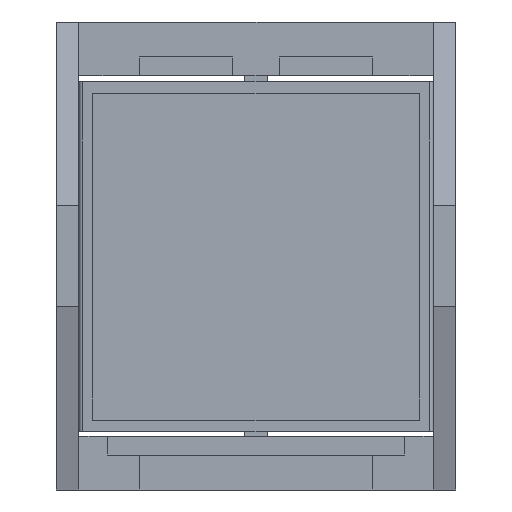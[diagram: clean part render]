
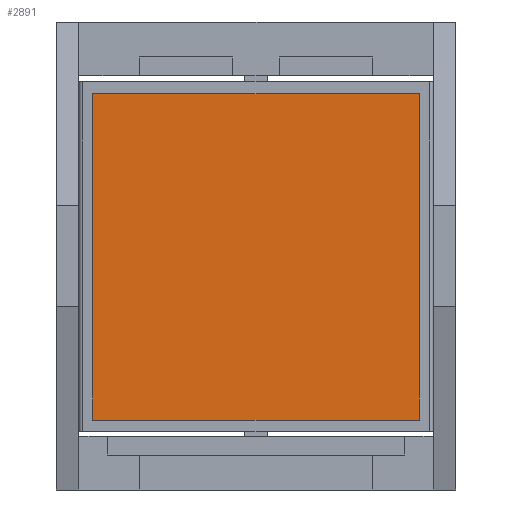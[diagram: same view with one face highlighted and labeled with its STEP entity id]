
A CAD part, front view. The second image highlights one B-rep face of the part: STEP entity #2891.
In plain terms, the highlighted planar face has unit normal (0, -1, 0).
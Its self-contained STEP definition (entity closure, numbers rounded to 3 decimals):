
#61 = EDGE_CURVE ( 'NONE', #6378, #4382, #4320, .T. ) ;
#265 = VERTEX_POINT ( 'NONE', #1347 ) ;
#965 = CARTESIAN_POINT ( 'NONE',  ( 9.081, -3.447, -7.477 ) ) ;
#990 = ORIENTED_EDGE ( 'NONE', *, *, #61, .F. ) ;
#1154 = VECTOR ( 'NONE', #3657, 1000. ) ;
#1347 = CARTESIAN_POINT ( 'NONE',  ( -11.919, -3.447, 13.523 ) ) ;
#1753 = DIRECTION ( 'NONE',  ( 0., 0., 1. ) ) ;
#1844 = ORIENTED_EDGE ( 'NONE', *, *, #6139, .F. ) ;
#1932 = PLANE ( 'NONE',  #3946 ) ;
#1987 = VECTOR ( 'NONE', #4972, 1000. ) ;
#2028 = CARTESIAN_POINT ( 'NONE',  ( -11.919, -3.447, -7.477 ) ) ;
#2283 = CARTESIAN_POINT ( 'NONE',  ( -11.919, -3.447, -7.477 ) ) ;
#2448 = CARTESIAN_POINT ( 'NONE',  ( -11.919, -3.447, 13.523 ) ) ;
#2891 = ADVANCED_FACE ( 'NONE', ( #4751 ), #1932, .F. ) ;
#3294 = ORIENTED_EDGE ( 'NONE', *, *, #6108, .F. ) ;
#3520 = VECTOR ( 'NONE', #1753, 1000. ) ;
#3559 = EDGE_LOOP ( 'NONE', ( #3294, #3739, #990, #1844 ) ) ;
#3657 = DIRECTION ( 'NONE',  ( 1., 0., 0. ) ) ;
#3739 = ORIENTED_EDGE ( 'NONE', *, *, #5220, .F. ) ;
#3946 = AXIS2_PLACEMENT_3D ( 'NONE', #2448, #4157, #6919 ) ;
#4157 = DIRECTION ( 'NONE',  ( 0., 1., 0. ) ) ;
#4320 = LINE ( 'NONE', #965, #1987 ) ;
#4382 = VERTEX_POINT ( 'NONE', #5880 ) ;
#4495 = VERTEX_POINT ( 'NONE', #2028 ) ;
#4650 = LINE ( 'NONE', #4688, #1154 ) ;
#4688 = CARTESIAN_POINT ( 'NONE',  ( -11.919, -3.447, 13.523 ) ) ;
#4751 = FACE_OUTER_BOUND ( 'NONE', #3559, .T. ) ;
#4972 = DIRECTION ( 'NONE',  ( 0., 0., -1. ) ) ;
#5185 = VECTOR ( 'NONE', #5985, 1000. ) ;
#5220 = EDGE_CURVE ( 'NONE', #4382, #4495, #7189, .T. ) ;
#5880 = CARTESIAN_POINT ( 'NONE',  ( 9.081, -3.447, -7.477 ) ) ;
#5945 = CARTESIAN_POINT ( 'NONE',  ( -11.919, -3.447, -7.477 ) ) ;
#5985 = DIRECTION ( 'NONE',  ( -1., 0., 0. ) ) ;
#6108 = EDGE_CURVE ( 'NONE', #4495, #265, #7315, .T. ) ;
#6139 = EDGE_CURVE ( 'NONE', #265, #6378, #4650, .T. ) ;
#6378 = VERTEX_POINT ( 'NONE', #6602 ) ;
#6602 = CARTESIAN_POINT ( 'NONE',  ( 9.081, -3.447, 13.523 ) ) ;
#6919 = DIRECTION ( 'NONE',  ( 0., 0., 1. ) ) ;
#7189 = LINE ( 'NONE', #5945, #5185 ) ;
#7315 = LINE ( 'NONE', #2283, #3520 ) ;
